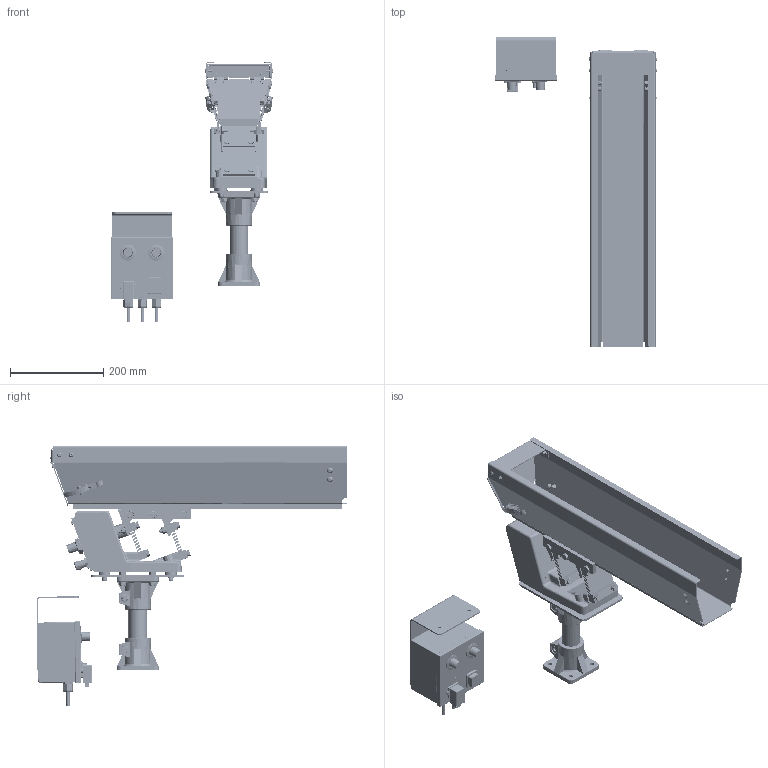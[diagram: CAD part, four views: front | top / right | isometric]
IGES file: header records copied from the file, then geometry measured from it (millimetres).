
Start section: SolidWorks IGES file using analytic representation for surfaces
Global section: file name: C:\Users\ufficiotecnico\OneDrive - Ars Srl\Desktop\Bulk Feeder 20 lt\Bulk Feeder 10lt V2.0.IGS; native system: SolidWorks 2020; preprocessor: SolidWorks 2020; author: ufficiotecnico; date: 211116.154304; units: millimetre
Bounding box: 346.8 x 665.05 x 558.58 mm (x, y, z)
Surface area: 1362088.9 mm2 (no closed solid volume)
Topology: 0 solids, 0 shells, 9257 faces, 90373 edges, 89992 vertices
Faces by surface type: revolution 7305, bspline 1952
